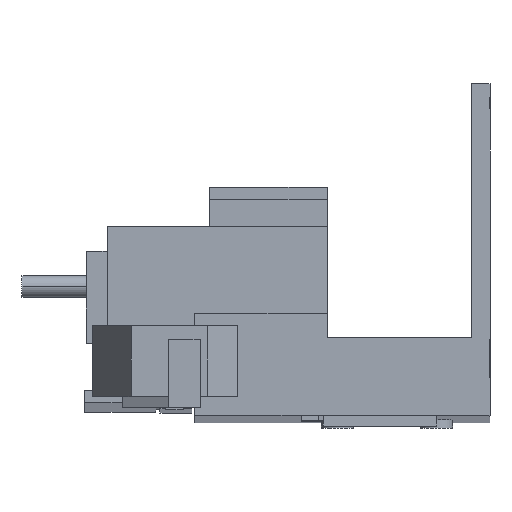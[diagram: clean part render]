
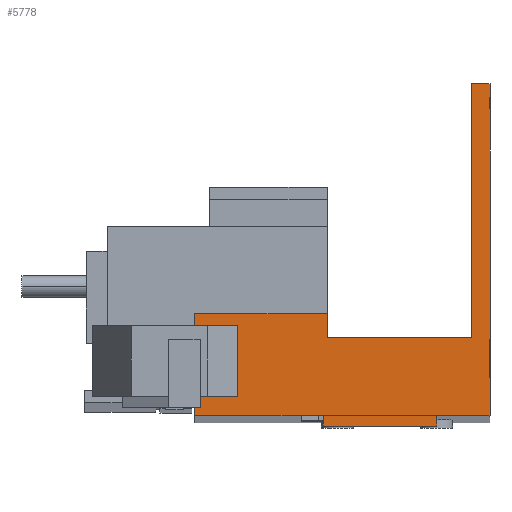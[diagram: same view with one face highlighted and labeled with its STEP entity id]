
A CAD part, front view. The second image highlights one B-rep face of the part: STEP entity #5778.
In plain terms, the highlighted planar face has unit normal (0, -1, 0.002).
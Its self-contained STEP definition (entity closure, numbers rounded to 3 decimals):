
#3 = DIRECTION ( 'NONE',  ( 0., 0.002, 1. ) ) ;
#7 = CARTESIAN_POINT ( 'NONE',  ( -7.5, -33.079, -37.681 ) ) ;
#198 = CARTESIAN_POINT ( 'NONE',  ( -2., -33.053, -25.181 ) ) ;
#199 = DIRECTION ( 'NONE',  ( -1., 0., 0. ) ) ;
#208 = CARTESIAN_POINT ( 'NONE',  ( -2.55, -33.072, -34.53 ) ) ;
#209 = DIRECTION ( 'NONE',  ( 0., -0.002, -1. ) ) ;
#311 = CARTESIAN_POINT ( 'NONE',  ( -41.6, -33.046, -21.831 ) ) ;
#314 = DIRECTION ( 'NONE',  ( 0., 0.002, 1. ) ) ;
#318 = CARTESIAN_POINT ( 'NONE',  ( -22.92, -33.046, -21.831 ) ) ;
#319 = DIRECTION ( 'NONE',  ( 0., 0.002, 1. ) ) ;
#341 = CARTESIAN_POINT ( 'NONE',  ( 0., -32.978, 10.519 ) ) ;
#343 = DIRECTION ( 'NONE',  ( -1., 0., 0. ) ) ;
#454 = CARTESIAN_POINT ( 'NONE',  ( 0., -33.076, -36.181 ) ) ;
#461 = PLANE ( 'NONE',  #4358 ) ;
#463 = DIRECTION ( 'NONE',  ( 0., 1., -0.002 ) ) ;
#464 = DIRECTION ( 'NONE',  ( -1., 0., 0. ) ) ;
#1241 = CARTESIAN_POINT ( 'NONE',  ( -22.92, -33.053, -25.181 ) ) ;
#1247 = CARTESIAN_POINT ( 'NONE',  ( -23.5, -33.079, -37.681 ) ) ;
#1280 = CARTESIAN_POINT ( 'NONE',  ( -2.55, -33.053, -25.181 ) ) ;
#1291 = CARTESIAN_POINT ( 'NONE',  ( -7.5, -33.079, -37.681 ) ) ;
#1326 = CARTESIAN_POINT ( 'NONE',  ( 0., -32.978, 10.519 ) ) ;
#1374 = CARTESIAN_POINT ( 'NONE',  ( -23.5, -33.076, -36.181 ) ) ;
#1378 = CARTESIAN_POINT ( 'NONE',  ( -41.6, -33.076, -36.181 ) ) ;
#1393 = CARTESIAN_POINT ( 'NONE',  ( -2.55, -32.978, 10.519 ) ) ;
#1418 = CARTESIAN_POINT ( 'NONE',  ( 0., -33.076, -36.181 ) ) ;
#1447 = CARTESIAN_POINT ( 'NONE',  ( -7.5, -33.076, -36.181 ) ) ;
#1454 = CARTESIAN_POINT ( 'NONE',  ( -22.92, -33.046, -21.831 ) ) ;
#1460 = CARTESIAN_POINT ( 'NONE',  ( -41.6, -33.046, -21.831 ) ) ;
#1570 = EDGE_LOOP ( 'NONE', ( #4101, #4024, #4026, #3882, #3856, #3860, #3848, #3852, #3877, #4147, #4031, #3929 ) ) ;
#1714 = EDGE_CURVE ( 'NONE', #6675, #6832, #5731, .T. ) ;
#1767 = EDGE_CURVE ( 'NONE', #6832, #6803, #5356, .T. ) ;
#1768 = EDGE_CURVE ( 'NONE', #6762, #6758, #5339, .T. ) ;
#2223 = VECTOR ( 'NONE', #3670, 1000. ) ;
#2233 = LINE ( 'NONE', #3661, #2223 ) ;
#2241 = VECTOR ( 'NONE', #199, 1000. ) ;
#2248 = LINE ( 'NONE', #198, #2241 ) ;
#2634 = VECTOR ( 'NONE', #319, 1000. ) ;
#2667 = LINE ( 'NONE', #3639, #3267 ) ;
#2846 = LINE ( 'NONE', #3582, #3319 ) ;
#2921 = VECTOR ( 'NONE', #314, 1000. ) ;
#2934 = LINE ( 'NONE', #341, #2921 ) ;
#2951 = VECTOR ( 'NONE', #343, 1000. ) ;
#3069 = VECTOR ( 'NONE', #209, 1000. ) ;
#3079 = LINE ( 'NONE', #318, #2634 ) ;
#3103 = LINE ( 'NONE', #311, #2951 ) ;
#3253 = FACE_OUTER_BOUND ( 'NONE', #1570, .T. ) ;
#3257 = VECTOR ( 'NONE', #3646, 1000. ) ;
#3267 = VECTOR ( 'NONE', #3644, 1000. ) ;
#3274 = LINE ( 'NONE', #3645, #3257 ) ;
#3319 = VECTOR ( 'NONE', #3583, 1000. ) ;
#3402 = LINE ( 'NONE', #208, #3069 ) ;
#3582 = CARTESIAN_POINT ( 'NONE',  ( -41.6, -33.076, -36.181 ) ) ;
#3583 = DIRECTION ( 'NONE',  ( 0., -0.002, -1. ) ) ;
#3639 = CARTESIAN_POINT ( 'NONE',  ( -7.5, -33.079, -37.681 ) ) ;
#3644 = DIRECTION ( 'NONE',  ( -1., 0., 0. ) ) ;
#3645 = CARTESIAN_POINT ( 'NONE',  ( -23.5, -33.079, -37.681 ) ) ;
#3646 = DIRECTION ( 'NONE',  ( 0., 0.002, 1. ) ) ;
#3661 = CARTESIAN_POINT ( 'NONE',  ( -2.55, -32.978, 10.519 ) ) ;
#3670 = DIRECTION ( 'NONE',  ( -1., 0., 0. ) ) ;
#3746 = DIRECTION ( 'NONE',  ( 1., 0., 0. ) ) ;
#3749 = DIRECTION ( 'NONE',  ( 1., 0., 0. ) ) ;
#3771 = CARTESIAN_POINT ( 'NONE',  ( 0., -33.076, -36.181 ) ) ;
#3775 = CARTESIAN_POINT ( 'NONE',  ( 0., -33.076, -36.181 ) ) ;
#3848 = ORIENTED_EDGE ( 'NONE', *, *, #4610, .F. ) ;
#3852 = ORIENTED_EDGE ( 'NONE', *, *, #1714, .T. ) ;
#3856 = ORIENTED_EDGE ( 'NONE', *, *, #1768, .T. ) ;
#3860 = ORIENTED_EDGE ( 'NONE', *, *, #4611, .F. ) ;
#3877 = ORIENTED_EDGE ( 'NONE', *, *, #1767, .T. ) ;
#3882 = ORIENTED_EDGE ( 'NONE', *, *, #4588, .T. ) ;
#3929 = ORIENTED_EDGE ( 'NONE', *, *, #4659, .T. ) ;
#4024 = ORIENTED_EDGE ( 'NONE', *, *, #4703, .T. ) ;
#4026 = ORIENTED_EDGE ( 'NONE', *, *, #4715, .T. ) ;
#4031 = ORIENTED_EDGE ( 'NONE', *, *, #4623, .T. ) ;
#4101 = ORIENTED_EDGE ( 'NONE', *, *, #4654, .T. ) ;
#4147 = ORIENTED_EDGE ( 'NONE', *, *, #4718, .T. ) ;
#4358 = AXIS2_PLACEMENT_3D ( 'NONE', #454, #463, #464 ) ;
#4588 = EDGE_CURVE ( 'NONE', #6845, #6762, #2846, .T. ) ;
#4610 = EDGE_CURVE ( 'NONE', #6675, #6631, #2667, .T. ) ;
#4611 = EDGE_CURVE ( 'NONE', #6631, #6758, #3274, .T. ) ;
#4623 = EDGE_CURVE ( 'NONE', #6710, #6777, #2233, .T. ) ;
#4654 = EDGE_CURVE ( 'NONE', #6664, #6623, #2248, .T. ) ;
#4659 = EDGE_CURVE ( 'NONE', #6777, #6664, #3402, .T. ) ;
#4703 = EDGE_CURVE ( 'NONE', #6623, #6839, #3079, .T. ) ;
#4715 = EDGE_CURVE ( 'NONE', #6839, #6845, #3103, .T. ) ;
#4718 = EDGE_CURVE ( 'NONE', #6803, #6710, #2934, .T. ) ;
#4781 = VECTOR ( 'NONE', #3746, 1000. ) ;
#5335 = VECTOR ( 'NONE', #3749, 1000. ) ;
#5339 = LINE ( 'NONE', #3775, #4781 ) ;
#5356 = LINE ( 'NONE', #3771, #5335 ) ;
#5580 = VECTOR ( 'NONE', #3, 1000. ) ;
#5731 = LINE ( 'NONE', #7, #5580 ) ;
#5778 = ADVANCED_FACE ( 'NONE', ( #3253 ), #461, .F. ) ;
#6623 = VERTEX_POINT ( 'NONE', #1241 ) ;
#6631 = VERTEX_POINT ( 'NONE', #1247 ) ;
#6664 = VERTEX_POINT ( 'NONE', #1280 ) ;
#6675 = VERTEX_POINT ( 'NONE', #1291 ) ;
#6710 = VERTEX_POINT ( 'NONE', #1326 ) ;
#6758 = VERTEX_POINT ( 'NONE', #1374 ) ;
#6762 = VERTEX_POINT ( 'NONE', #1378 ) ;
#6777 = VERTEX_POINT ( 'NONE', #1393 ) ;
#6803 = VERTEX_POINT ( 'NONE', #1418 ) ;
#6832 = VERTEX_POINT ( 'NONE', #1447 ) ;
#6839 = VERTEX_POINT ( 'NONE', #1454 ) ;
#6845 = VERTEX_POINT ( 'NONE', #1460 ) ;
